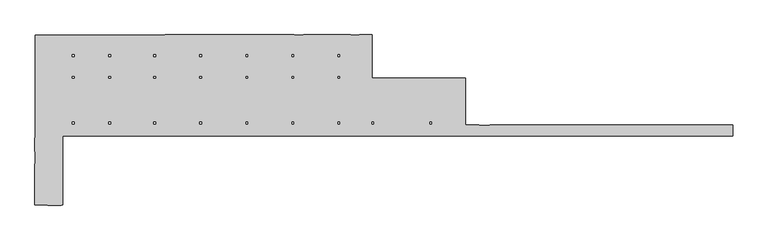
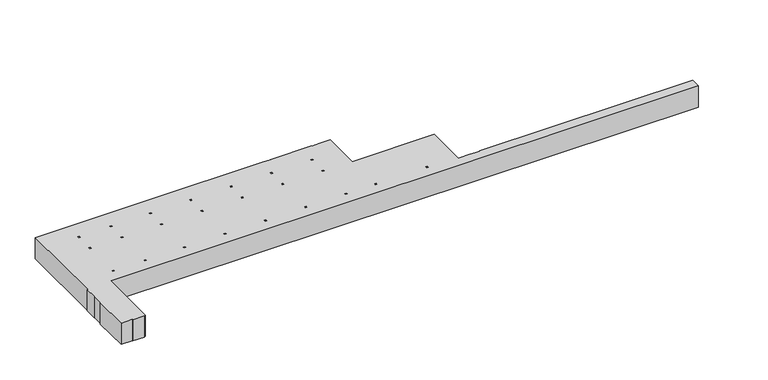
"""IFC4 building model written with IfcOpenShell, lengths in millimetres: proxy geometry."""

from ifc_helpers import new_model, si_unit, origin, origin_with_axes, place, context, project, spatial, polyline, outline, extrude, source, transform, mapped, element, save


def generic_models_f21598ec(model_context):
    return source(origin(), model_context, "Body", "SweptSolid", [
        extrude(outline(polyline([(-47879.998776, -19462.7903364), (-47879.998776, -24751.5656731), (-36494.9987968, -24751.5656731), (-36494.9987968, -30465.1349959), (-34866.8380867, -30465.1349959), (-34866.8380867, -30503.1349959), (-33502.9988284, -30503.1349959), (-33502.9988284, -30465.1349959), (-3999.9988284, -30465.1349959), (-3999.9988284, -31803.1349959), (-85489.873809, -31803.1349959), (-85489.873809, -40150.7903364), (-85679.873809, -40150.7903364), (-85679.873809, -40200.7903364), (-87269.3218006, -40200.7903364), (-87269.3218006, -40150.7903364), (-88856.3218006, -40150.7903364), (-88856.3218006, -35210.7903364), (-88819.3218006, -35210.7903364), (-88819.3218006, -33657.9180652), (-88856.3218006, -33657.9180652), (-88856.3218006, -32050.7903364), (-88819.3218006, -32050.7903364), (-88819.3218006, -19500.7903364), (-72994.9987763, -19500.7903364), (-72994.9987763, -19462.7903364), (-57344.9987763, -19462.7903364), (-57344.9987763, -19500.7903364), (-56194.998776, -19500.7903364), (-56194.998776, -19462.7903364), (-50494.998776, -19462.7903364), (-50494.998776, -19500.7903364), (-49345.1987757, -19500.7903364), (-49345.1987757, -19462.7903364), (-47879.998776, -19462.7903364)]), holes=[polyline([(-51995.0004166, -24751.5656731), (-51795.0004166, -24751.5656731), (-51795.0004166, -24551.5656731), (-51995.0004166, -24551.5656731), (-51995.0004166, -24751.5656731)]), polyline([(-57594.9988166, -24751.5656731), (-57394.9988166, -24751.5656731), (-57394.9988166, -24551.5656731), (-57594.9988166, -24551.5656731), (-57594.9988166, -24751.5656731)]), polyline([(-63195.0004166, -24751.5656731), (-62995.0004166, -24751.5656731), (-62995.0004166, -24551.5656731), (-63195.0004166, -24551.5656731), (-63195.0004166, -24751.5656731)]), polyline([(-68795.0004166, -24751.5656731), (-68595.0004166, -24751.5656731), (-68595.0004166, -24551.5656731), (-68795.0004166, -24551.5656731), (-68795.0004166, -24751.5656731)]), polyline([(-74395.0004166, -24751.5656731), (-74195.0004166, -24751.5656731), (-74195.0004166, -24551.5656731), (-74395.0004166, -24551.5656731), (-74395.0004166, -24751.5656731)]), polyline([(-79864.998776, -24751.5656731), (-79664.998776, -24751.5656731), (-79664.998776, -24551.5656731), (-79864.998776, -24551.5656731), (-79864.998776, -24751.5656731)]), polyline([(-84294.9987767, -24751.5656731), (-84094.9987767, -24751.5656731), (-84094.9987767, -24551.5656731), (-84294.9987767, -24551.5656731), (-84294.9987767, -24751.5656731)]), polyline([(-47879.998776, -30303.1349959), (-47679.998776, -30303.1349959), (-47679.998776, -30103.1349959), (-47879.998776, -30103.1349959), (-47879.998776, -30303.1349959)]), polyline([(-51995.0004166, -30303.1349959), (-51795.0004166, -30303.1349959), (-51795.0004166, -30103.1349959), (-51995.0004166, -30103.1349959), (-51995.0004166, -30303.1349959)]), polyline([(-57594.9988166, -30303.1349959), (-57394.9988166, -30303.1349959), (-57394.9988166, -30103.1349959), (-57594.9988166, -30103.1349959), (-57594.9988166, -30303.1349959)]), polyline([(-63195.0004166, -30303.1349959), (-62995.0004166, -30303.1349959), (-62995.0004166, -30103.1349959), (-63195.0004166, -30103.1349959), (-63195.0004166, -30303.1349959)]), polyline([(-68795.0004166, -30303.1349959), (-68595.0004166, -30303.1349959), (-68595.0004166, -30103.1349959), (-68795.0004166, -30103.1349959), (-68795.0004166, -30303.1349959)]), polyline([(-74395.0004166, -30303.1349959), (-74195.0004166, -30303.1349959), (-74195.0004166, -30103.1349959), (-74395.0004166, -30103.1349959), (-74395.0004166, -30303.1349959)]), polyline([(-79864.998776, -30303.1349959), (-79664.998776, -30303.1349959), (-79664.998776, -30103.1349959), (-79864.998776, -30103.1349959), (-79864.998776, -30303.1349959)]), polyline([(-84294.9987767, -30303.1349959), (-84094.9987767, -30303.1349959), (-84094.9987767, -30103.1349959), (-84294.9987767, -30103.1349959), (-84294.9987767, -30303.1349959)]), polyline([(-40795.0004159, -30303.1349959), (-40595.0004159, -30303.1349959), (-40595.0004159, -30103.1349959), (-40795.0004159, -30103.1349959), (-40795.0004159, -30303.1349959)]), polyline([(-51995.0004166, -22101.5656731), (-51795.0004166, -22101.5656731), (-51795.0004166, -21901.5656731), (-51995.0004166, -21901.5656731), (-51995.0004166, -22101.5656731)]), polyline([(-57594.9988166, -22101.5656731), (-57394.9988166, -22101.5656731), (-57394.9988166, -21901.5656731), (-57594.9988166, -21901.5656731), (-57594.9988166, -22101.5656731)]), polyline([(-63195.0004166, -22101.5656731), (-62995.0004166, -22101.5656731), (-62995.0004166, -21901.5656731), (-63195.0004166, -21901.5656731), (-63195.0004166, -22101.5656731)]), polyline([(-68795.0004166, -22101.5656731), (-68595.0004166, -22101.5656731), (-68595.0004166, -21901.5656731), (-68795.0004166, -21901.5656731), (-68795.0004166, -22101.5656731)]), polyline([(-74395.0004166, -22101.5656731), (-74195.0004166, -22101.5656731), (-74195.0004166, -21901.5656731), (-74395.0004166, -21901.5656731), (-74395.0004166, -22101.5656731)]), polyline([(-79864.998776, -22101.5656731), (-79664.998776, -22101.5656731), (-79664.998776, -21901.5656731), (-79864.998776, -21901.5656731), (-79864.998776, -22101.5656731)]), polyline([(-84294.9987767, -22101.5656731), (-84094.9987767, -22101.5656731), (-84094.9987767, -21901.5656731), (-84294.9987767, -21901.5656731), (-84294.9987767, -22101.5656731)])]), origin_with_axes(), (0.0, 0.0, 1.0), 3130.0),
    ])


if __name__ == "__main__":
    model = new_model("IFC4")
    model_context = context("Model", 3, world=origin())
    ifc_project = project(units=[si_unit("LENGTHUNIT", "METRE", prefix="MILLI")], contexts=[model_context])
    site = spatial("IfcSite", under=ifc_project)
    building = spatial("IfcBuilding", under=site)
    placement = place(None, origin())
    generic_models_shape = generic_models_f21598ec(model_context)
    element("IfcBuildingElementProxy", 1, Name="Generic Models", at=placement, inside=building, context=model_context, shape_type="MappedRepresentation", body=[
        mapped(generic_models_shape, transform((0.0, 0.0, 0.0), x_axis=(1.0, 0.0, 0.0), y_axis=(0.0, 1.0, 0.0), z_axis=(0.0, 0.0, 1.0))),
    ])
    save(model, "model.ifc")
